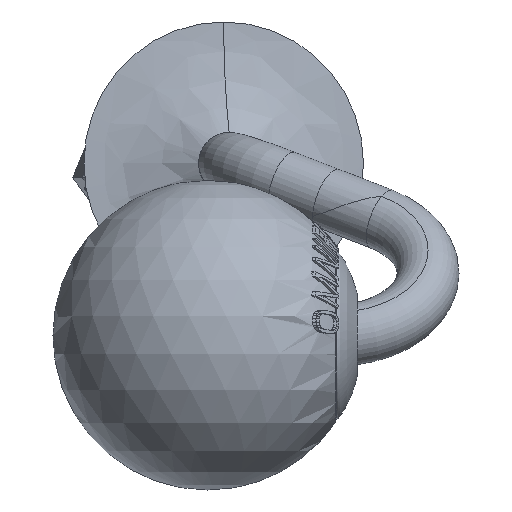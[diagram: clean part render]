
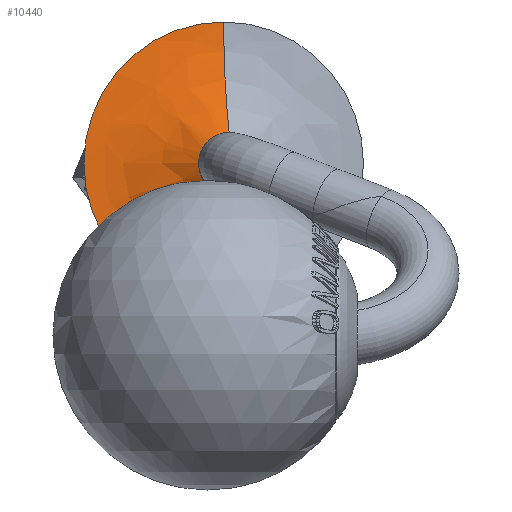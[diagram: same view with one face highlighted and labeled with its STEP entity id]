
A CAD part, top view. The second image highlights one B-rep face of the part: STEP entity #10440.
In plain terms, the highlighted free-form (B-spline) face has degree [3, 3] with [7, 4] control points.
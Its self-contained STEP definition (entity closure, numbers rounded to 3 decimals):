
#10215=CARTESIAN_POINT('',(0.,0.,5.));
#10216=DIRECTION('',(0.,0.,1.));
#10217=DIRECTION('',(0.,1.,0.));
#10218=AXIS2_PLACEMENT_3D('',#10215,#10216,#10217);
#10238=CARTESIAN_POINT('',(0.,-16.,22.531));
#10239=DIRECTION('',(1.,0.,0.));
#10240=DIRECTION('',(0.,0.,-1.));
#10241=AXIS2_PLACEMENT_3D('',#10238,#10239,#10240);
#10243=CARTESIAN_POINT('',(0.,16.,22.531));
#10244=DIRECTION('',(-1.,0.,0.));
#10245=DIRECTION('',(0.,0.,-1.));
#10246=AXIS2_PLACEMENT_3D('',#10243,#10244,#10245);
#10256=CARTESIAN_POINT('',(0.,0.,1.));
#10257=DIRECTION('',(0.,0.,1.));
#10258=DIRECTION('',(0.,1.,0.));
#10259=AXIS2_PLACEMENT_3D('',#10256,#10257,#10258);
#10291=CARTESIAN_POINT('',(0.,3.5,5.));
#10293=VERTEX_POINT('',#10291);
#10295=CARTESIAN_POINT('',(0.,-3.5,5.));
#10297=VERTEX_POINT('',#10295);
#10299=CARTESIAN_POINT('',(0.,-16.,
1.));
#10300=CARTESIAN_POINT('',(0.,16.,
1.));
#10301=VERTEX_POINT('',#10299);
#10302=VERTEX_POINT('',#10300);
#10405=CARTESIAN_POINT('',(0.206,3.277,
5.156));
#10406=CARTESIAN_POINT('',(0.445,7.067,
2.377));
#10407=CARTESIAN_POINT('',(0.726,11.539,
0.943));
#10408=CARTESIAN_POINT('',(1.021,16.235,1.002));
#10409=CARTESIAN_POINT('',(-1.811,3.404,
5.156));
#10410=CARTESIAN_POINT('',(-3.904,7.34,
2.377));
#10411=CARTESIAN_POINT('',(-6.375,11.986,
0.943));
#10412=CARTESIAN_POINT('',(-8.969,16.863,
1.002));
#10413=CARTESIAN_POINT('',(-3.284,2.021,
5.156));
#10414=CARTESIAN_POINT('',(-7.081,4.357,
2.377));
#10415=CARTESIAN_POINT('',(-11.562,7.115,
0.943));
#10416=CARTESIAN_POINT('',(-16.267,10.011,
1.002));
#10417=CARTESIAN_POINT('',(-3.284,0.,5.156));
#10418=CARTESIAN_POINT('',(-7.081,0.,2.377));
#10419=CARTESIAN_POINT('',(-11.562,0.,0.943));
#10420=CARTESIAN_POINT('',(-16.267,0.,1.002));
#10421=CARTESIAN_POINT('',(-3.284,-2.021,
5.156));
#10422=CARTESIAN_POINT('',(-7.081,-4.357,
2.377));
#10423=CARTESIAN_POINT('',(-11.562,-7.115,
0.943));
#10424=CARTESIAN_POINT('',(-16.267,-10.011,
1.002));
#10425=CARTESIAN_POINT('',(-1.811,-3.404,
5.156));
#10426=CARTESIAN_POINT('',(-3.904,-7.34,
2.377));
#10427=CARTESIAN_POINT('',(-6.375,-11.986,
0.943));
#10428=CARTESIAN_POINT('',(-8.969,-16.863,
1.002));
#10429=CARTESIAN_POINT('',(0.206,-3.277,
5.156));
#10430=CARTESIAN_POINT('',(0.445,-7.067,
2.377));
#10431=CARTESIAN_POINT('',(0.726,-11.539,
0.943));
#10432=CARTESIAN_POINT('',(1.021,-16.235,
1.002));
#10433=(BOUNDED_SURFACE()B_SPLINE_SURFACE(3,3,((#10405,#10406,#10407,#10408),(
#10409,#10410,#10411,#10412),(#10413,#10414,#10415,#10416),(#10417,#10418,
#10419,#10420),(#10421,#10422,#10423,#10424),(#10425,#10426,#10427,#10428),(
#10429,#10430,#10431,#10432)),.UNSPECIFIED.,.F.,.F.,.F.)B_SPLINE_SURFACE_WITH_KNOTS((4,3,4),(4,4),(0.,1.,2.),(0.,1.),.UNSPECIFIED.)GEOMETRIC_REPRESENTATION_ITEM()RATIONAL_B_SPLINE_SURFACE(((1.219,1.177,
1.177,1.219),(0.962,0.929,
0.929,0.962),(0.962,0.929,
0.929,0.962),(1.219,1.177,
1.177,1.219),(0.962,0.929,
0.929,0.962),(0.962,0.929,
0.929,0.962),(1.219,1.177,
1.177,1.219)))REPRESENTATION_ITEM('')SURFACE());
#10434=ORIENTED_EDGE('',*,*,#10396,.F.);
#10435=ORIENTED_EDGE('',*,*,#10371,.T.);
#10436=ORIENTED_EDGE('',*,*,#10318,.T.);
#10437=ORIENTED_EDGE('',*,*,#10368,.F.);
#10438=EDGE_LOOP('',(#10434,#10435,#10436,#10437));
#10439=FACE_OUTER_BOUND('',#10438,.F.);
#10440=ADVANCED_FACE('',(#10439),#10433,.F.);
#10219=CIRCLE('',#10218,3.5);
#10242=CIRCLE('',#10241,21.531);
#10247=CIRCLE('',#10246,21.531);
#10260=CIRCLE('',#10259,16.);
#10318=EDGE_CURVE('',#10293,#10297,#10219,.T.);
#10368=EDGE_CURVE('',#10301,#10297,#10242,.T.);
#10371=EDGE_CURVE('',#10302,#10293,#10247,.T.);
#10396=EDGE_CURVE('',#10302,#10301,#10260,.T.);
